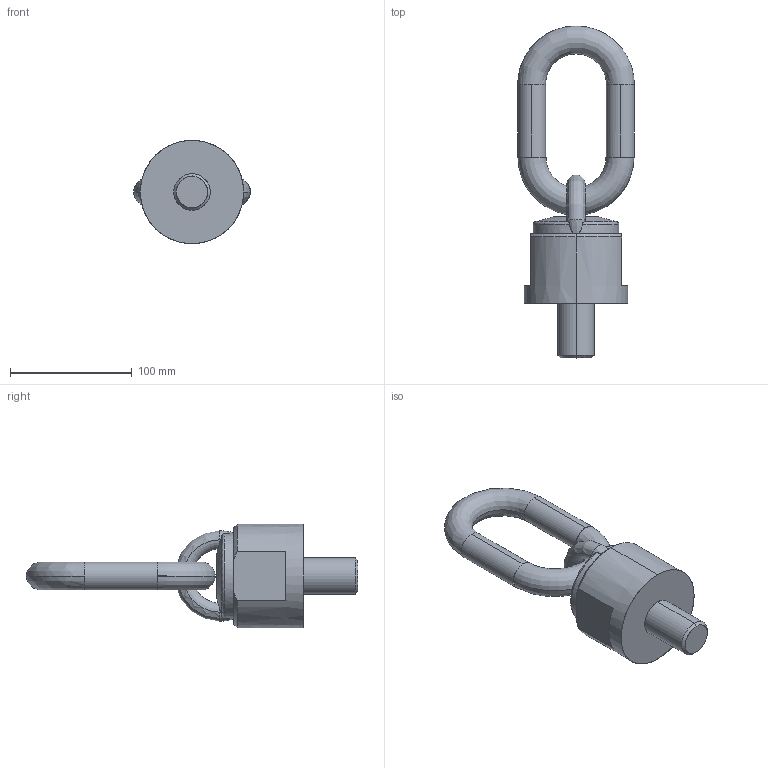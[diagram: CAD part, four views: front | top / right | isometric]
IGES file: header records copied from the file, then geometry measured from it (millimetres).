
Start section: START RECORD GO HERE.
Global section: file name: C8000803045.igs; native system: DASSAULT SYSTEMES CATIA V5 R20 - www.3ds.com; preprocessor: CATIA Version 5 Release 20 ; author: Utente; organization: NB04-ASUS; date: 20200412.161231; units: millimetre
Bounding box: 96 x 273 x 85 mm (x, y, z)
Surface area: 61049 mm2 (no closed solid volume)
Topology: 0 solids, 0 shells, 45 faces, 239 edges, 239 vertices
Faces by surface type: revolution 33, extrusion 12
